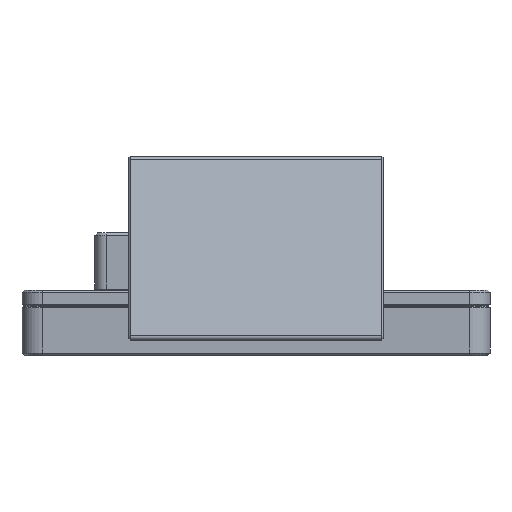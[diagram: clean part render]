
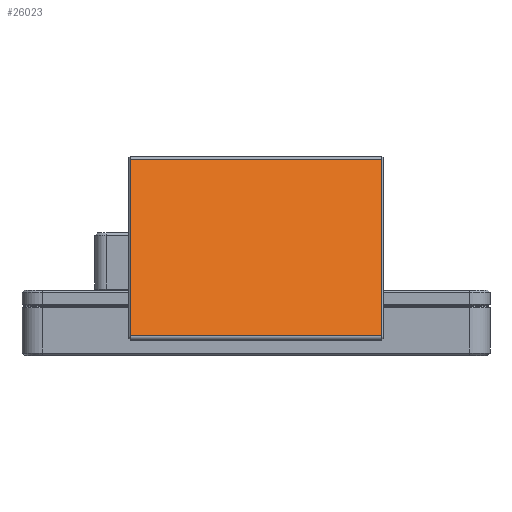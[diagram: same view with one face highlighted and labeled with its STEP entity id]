
A CAD part, front view. The second image highlights one B-rep face of the part: STEP entity #26023.
In plain terms, the highlighted planar face has unit normal (0, -0.951, 0.309).
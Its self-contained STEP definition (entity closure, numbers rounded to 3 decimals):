
#23203 = PLANE('',#23204);
#23204 = AXIS2_PLACEMENT_3D('',#23205,#23206,#23207);
#23205 = CARTESIAN_POINT('',(-49.7,-42.881,77.172));
#23206 = DIRECTION('',(-0.707,-0.672,0.219));
#23207 = DIRECTION('',(0.,0.309,0.951
    ));
#23844 = PLANE('',#23845);
#23845 = AXIS2_PLACEMENT_3D('',#23846,#23847,#23848);
#23846 = CARTESIAN_POINT('',(49.7,-42.881,77.172));
#23847 = DIRECTION('',(-0.707,0.672,-0.219));
#23848 = DIRECTION('',(0.,0.309,0.951)
  );
#24304 = CYLINDRICAL_SURFACE('',#24305,1.5);
#24305 = AXIS2_PLACEMENT_3D('',#24306,#24307,#24308);
#24306 = CARTESIAN_POINT('',(-50.,-64.257,7.5));
#24307 = DIRECTION('',(1.,0.,0.));
#24308 = DIRECTION('',(0.,0.,-1.));
#24388 = VERTEX_POINT('',#24389);
#24389 = CARTESIAN_POINT('',(-49.4,-65.684,7.964));
#24436 = VERTEX_POINT('',#24437);
#24437 = CARTESIAN_POINT('',(-49.4,-43.166,77.265));
#24456 = EDGE_CURVE('',#24436,#24388,#24457,.T.);
#24457 = SURFACE_CURVE('',#24458,(#24462,#24469),.PCURVE_S1.);
#24458 = LINE('',#24459,#24460);
#24459 = CARTESIAN_POINT('',(-49.4,-43.166,77.265));
#24460 = VECTOR('',#24461,1.);
#24461 = DIRECTION('',(0.,-0.309,-0.951));
#24462 = PCURVE('',#23203,#24463);
#24463 = DEFINITIONAL_REPRESENTATION('',(#24464),#24468);
#24464 = LINE('',#24465,#24466);
#24465 = CARTESIAN_POINT('',(0.,-0.424));
#24466 = VECTOR('',#24467,1.);
#24467 = DIRECTION('',(-1.,0.));
#24468 = ( GEOMETRIC_REPRESENTATION_CONTEXT(2) 
PARAMETRIC_REPRESENTATION_CONTEXT() REPRESENTATION_CONTEXT('2D SPACE',''
  ) );
#24469 = PCURVE('',#24470,#24475);
#24470 = PLANE('',#24471);
#24471 = AXIS2_PLACEMENT_3D('',#24472,#24473,#24474);
#24472 = CARTESIAN_POINT('',(-50.,-42.829,78.302));
#24473 = DIRECTION('',(0.,0.951,-0.309));
#24474 = DIRECTION('',(0.,-0.309,-0.951));
#24475 = DEFINITIONAL_REPRESENTATION('',(#24476),#24480);
#24476 = LINE('',#24477,#24478);
#24477 = CARTESIAN_POINT('',(1.09,-0.6));
#24478 = VECTOR('',#24479,1.);
#24479 = DIRECTION('',(1.,0.));
#24480 = ( GEOMETRIC_REPRESENTATION_CONTEXT(2) 
PARAMETRIC_REPRESENTATION_CONTEXT() REPRESENTATION_CONTEXT('2D SPACE',''
  ) );
#24523 = CYLINDRICAL_SURFACE('',#24524,1.5);
#24524 = AXIS2_PLACEMENT_3D('',#24525,#24526,#24527);
#24525 = CARTESIAN_POINT('',(-50.,-41.74,76.802));
#24526 = DIRECTION('',(1.,0.,0.));
#24527 = DIRECTION('',(0.,-0.951,0.309));
#25171 = VERTEX_POINT('',#25172);
#25172 = CARTESIAN_POINT('',(49.4,-65.684,7.964));
#25219 = VERTEX_POINT('',#25220);
#25220 = CARTESIAN_POINT('',(49.4,-43.166,77.265));
#25239 = EDGE_CURVE('',#25219,#25171,#25240,.T.);
#25240 = SURFACE_CURVE('',#25241,(#25245,#25252),.PCURVE_S1.);
#25241 = LINE('',#25242,#25243);
#25242 = CARTESIAN_POINT('',(49.4,-43.166,77.265));
#25243 = VECTOR('',#25244,1.);
#25244 = DIRECTION('',(0.,-0.309,-0.951));
#25245 = PCURVE('',#23844,#25246);
#25246 = DEFINITIONAL_REPRESENTATION('',(#25247),#25251);
#25247 = LINE('',#25248,#25249);
#25248 = CARTESIAN_POINT('',(0.,-0.424));
#25249 = VECTOR('',#25250,1.);
#25250 = DIRECTION('',(-1.,0.));
#25251 = ( GEOMETRIC_REPRESENTATION_CONTEXT(2) 
PARAMETRIC_REPRESENTATION_CONTEXT() REPRESENTATION_CONTEXT('2D SPACE',''
  ) );
#25252 = PCURVE('',#24470,#25253);
#25253 = DEFINITIONAL_REPRESENTATION('',(#25254),#25258);
#25254 = LINE('',#25255,#25256);
#25255 = CARTESIAN_POINT('',(1.09,-99.4));
#25256 = VECTOR('',#25257,1.);
#25257 = DIRECTION('',(1.,0.));
#25258 = ( GEOMETRIC_REPRESENTATION_CONTEXT(2) 
PARAMETRIC_REPRESENTATION_CONTEXT() REPRESENTATION_CONTEXT('2D SPACE',''
  ) );
#26002 = EDGE_CURVE('',#24388,#25171,#26003,.T.);
#26003 = SURFACE_CURVE('',#26004,(#26008,#26015),.PCURVE_S1.);
#26004 = LINE('',#26005,#26006);
#26005 = CARTESIAN_POINT('',(-50.,-65.684,7.964));
#26006 = VECTOR('',#26007,1.);
#26007 = DIRECTION('',(1.,0.,0.));
#26008 = PCURVE('',#24304,#26009);
#26009 = DEFINITIONAL_REPRESENTATION('',(#26010),#26014);
#26010 = LINE('',#26011,#26012);
#26011 = CARTESIAN_POINT('',(-1.885,0.));
#26012 = VECTOR('',#26013,1.);
#26013 = DIRECTION('',(-0.,1.));
#26014 = ( GEOMETRIC_REPRESENTATION_CONTEXT(2) 
PARAMETRIC_REPRESENTATION_CONTEXT() REPRESENTATION_CONTEXT('2D SPACE',''
  ) );
#26015 = PCURVE('',#24470,#26016);
#26016 = DEFINITIONAL_REPRESENTATION('',(#26017),#26021);
#26017 = LINE('',#26018,#26019);
#26018 = CARTESIAN_POINT('',(73.958,0.));
#26019 = VECTOR('',#26020,1.);
#26020 = DIRECTION('',(0.,-1.));
#26021 = ( GEOMETRIC_REPRESENTATION_CONTEXT(2) 
PARAMETRIC_REPRESENTATION_CONTEXT() REPRESENTATION_CONTEXT('2D SPACE',''
  ) );
#26023 = ADVANCED_FACE('',(#26024),#24470,.F.);
#26024 = FACE_BOUND('',#26025,.F.);
#26025 = EDGE_LOOP('',(#26026,#26047,#26048,#26049));
#26026 = ORIENTED_EDGE('',*,*,#26027,.T.);
#26027 = EDGE_CURVE('',#24436,#25219,#26028,.T.);
#26028 = SURFACE_CURVE('',#26029,(#26033,#26040),.PCURVE_S1.);
#26029 = LINE('',#26030,#26031);
#26030 = CARTESIAN_POINT('',(-50.,-43.166,77.265));
#26031 = VECTOR('',#26032,1.);
#26032 = DIRECTION('',(1.,0.,0.));
#26033 = PCURVE('',#24470,#26034);
#26034 = DEFINITIONAL_REPRESENTATION('',(#26035),#26039);
#26035 = LINE('',#26036,#26037);
#26036 = CARTESIAN_POINT('',(1.09,0.));
#26037 = VECTOR('',#26038,1.);
#26038 = DIRECTION('',(0.,-1.));
#26039 = ( GEOMETRIC_REPRESENTATION_CONTEXT(2) 
PARAMETRIC_REPRESENTATION_CONTEXT() REPRESENTATION_CONTEXT('2D SPACE',''
  ) );
#26040 = PCURVE('',#24523,#26041);
#26041 = DEFINITIONAL_REPRESENTATION('',(#26042),#26046);
#26042 = LINE('',#26043,#26044);
#26043 = CARTESIAN_POINT('',(-0.,0.));
#26044 = VECTOR('',#26045,1.);
#26045 = DIRECTION('',(-0.,1.));
#26046 = ( GEOMETRIC_REPRESENTATION_CONTEXT(2) 
PARAMETRIC_REPRESENTATION_CONTEXT() REPRESENTATION_CONTEXT('2D SPACE',''
  ) );
#26047 = ORIENTED_EDGE('',*,*,#25239,.T.);
#26048 = ORIENTED_EDGE('',*,*,#26002,.F.);
#26049 = ORIENTED_EDGE('',*,*,#24456,.F.);
